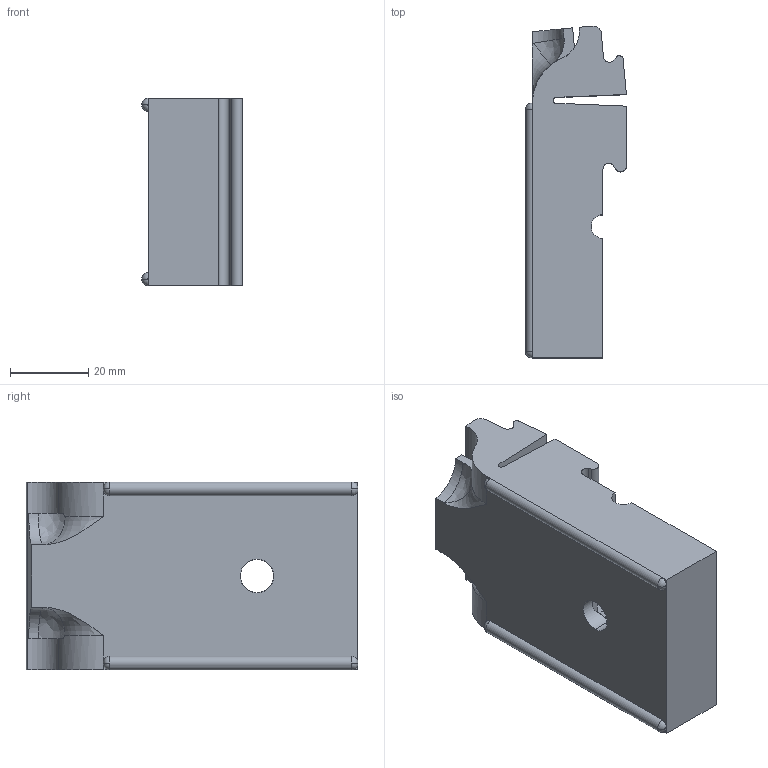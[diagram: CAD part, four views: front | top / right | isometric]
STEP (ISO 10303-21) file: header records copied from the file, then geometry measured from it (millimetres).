
FILE_DESCRIPTION (( 'STEP AP214' ), '1' );
FILE_NAME ('R2 SL1-17M.step', '2017-04-05T07:50:39', ( '' ), ( '' ), 'SwSTEP 2.0', 'SolidWorks 2015', '' );
FILE_SCHEMA (( 'AUTOMOTIVE_DESIGN' ));
Length unit declared in the file: millimetre
Products named in the file (1): R2 SL1-17M
Bounding box: 25.75 x 84.71 x 48 mm (x, y, z)
Volume: 58404.6 mm3; surface area: 19972 mm2
Topology: 1 solids, 1 shells, 115 faces, 314 edges, 205 vertices
Faces by surface type: plane 69, cylinder 34, torus 10, bspline 2
Entity records: 3960 total; most frequent: CARTESIAN_POINT 970, ORIENTED_EDGE 628, DIRECTION 601, EDGE_CURVE 314, LINE 205, VECTOR 205, VERTEX_POINT 205, AXIS2_PLACEMENT_3D 198
